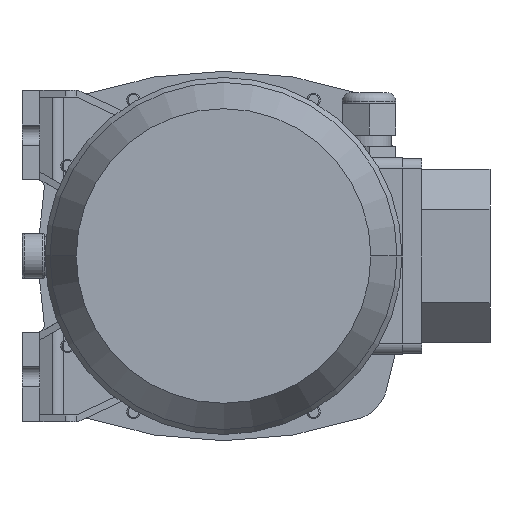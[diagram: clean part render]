
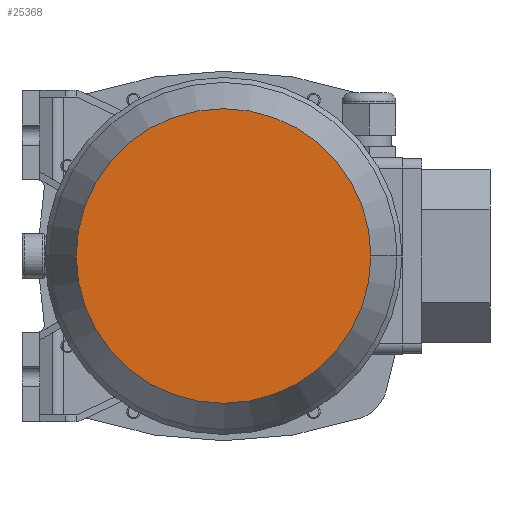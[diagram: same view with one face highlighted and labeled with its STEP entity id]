
A CAD part, front view. The second image highlights one B-rep face of the part: STEP entity #25368.
In plain terms, the highlighted planar face has unit normal (0, -1, 0) as drawn and (1, 0, 0) by its records, which use the part's own axes.
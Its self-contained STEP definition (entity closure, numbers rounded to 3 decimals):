
#18680=CARTESIAN_POINT('',(228.,0.,0.));
#18681=DIRECTION('',(-1.,0.,0.));
#18682=DIRECTION('',(0.,1.,0.));
#18683=AXIS2_PLACEMENT_3D('',#18680,#18681,#18682);
#18688=CARTESIAN_POINT('',(228.,0.,0.));
#18689=DIRECTION('',(1.,0.,0.));
#18690=DIRECTION('',(0.,1.,0.));
#18691=AXIS2_PLACEMENT_3D('',#18688,#18689,#18690);
#20661=CARTESIAN_POINT('',(228.,65.794,0.));
#20663=VERTEX_POINT('',#20661);
#20671=CARTESIAN_POINT('',(228.,-65.794,0.));
#20673=VERTEX_POINT('',#20671);
#25359=CARTESIAN_POINT('',(228.,0.,0.));
#25360=DIRECTION('',(1.,0.,0.));
#25361=DIRECTION('',(0.,-1.,0.));
#25362=AXIS2_PLACEMENT_3D('',#25359,#25360,#25361);
#25363=PLANE('',#25362);
#25364=ORIENTED_EDGE('',*,*,#25341,.T.);
#25365=ORIENTED_EDGE('',*,*,#25352,.F.);
#25366=EDGE_LOOP('',(#25364,#25365));
#25367=FACE_OUTER_BOUND('',#25366,.F.);
#18684=CIRCLE('',#18683,65.794);
#18692=CIRCLE('',#18691,65.794);
#25341=EDGE_CURVE('',#20663,#20673,#18684,.T.);
#25352=EDGE_CURVE('',#20663,#20673,#18692,.T.);
#25368=ADVANCED_FACE('',(#25367),#25363,.T.);
